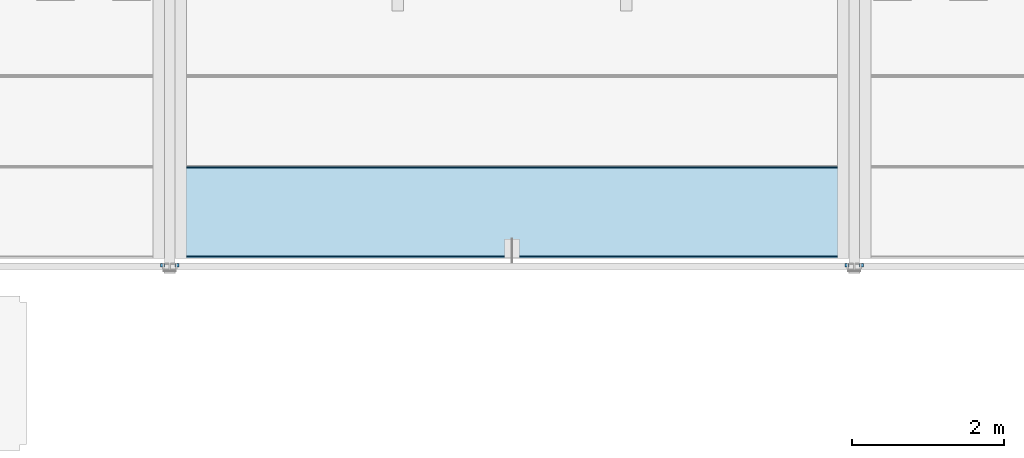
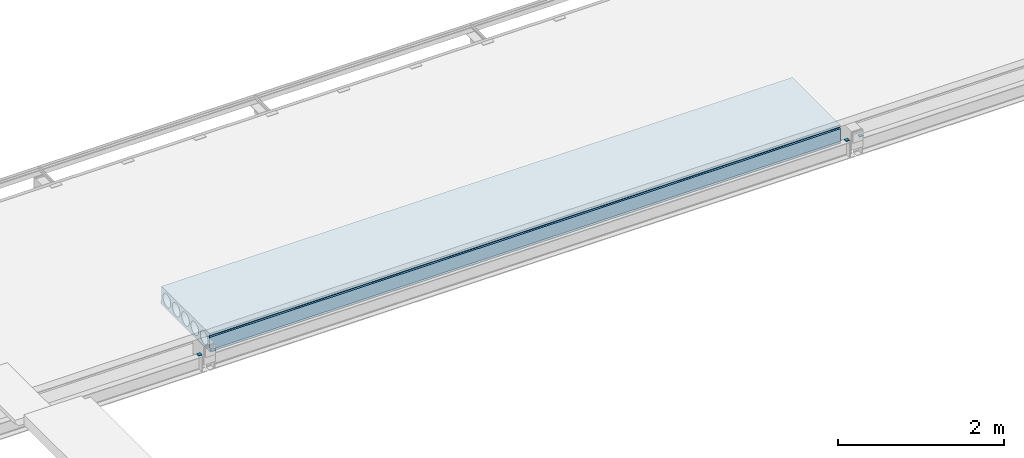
# One storey, part 4 of 8: 4 beams, 1 slab.
"""IFC2X3 building model written with IfcOpenShell, lengths in millimetres."""

from ifc_helpers import new_model, entity, si_unit, converted_unit, derived_unit, direction, frame, origin_with_axes, place, context, subcontext, project, spatial, polyline, outline, extrude, material, type_object, element, save


model = new_model("IFC2X3")

# Units and contexts
model_context = context("Model", 3, precision=0.01, world=frame((0.0, 4.29681676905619e-09, 0.0)), true_north=direction((4.01073788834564e-13, 1.0)))
plan_context = context("Plan", 3, precision=0.01, world=frame((0.0, 4.29681676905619e-09, 0.0)), true_north=direction((4.01073788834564e-13, 1.0)))
body_context = subcontext(model_context, "Body", "Model", "MODEL_VIEW")
ifc_project = project(units=[converted_unit("PLANEANGLEUNIT", "DEGREE", entity("IfcPositiveLengthMeasure", 0.0174532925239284), si_unit("PLANEANGLEUNIT", "RADIAN"), dimensions=[0, 0, 0, 0, 0, 0, 0]), si_unit("AREAUNIT", "SQUARE_METRE"), si_unit("LENGTHUNIT", "METRE", prefix="MILLI"), si_unit("MASSUNIT", "GRAM", prefix="KILO"), si_unit("POWERUNIT", "WATT"), si_unit("PRESSUREUNIT", "PASCAL"), si_unit("FORCEUNIT", "NEWTON", prefix="KILO"), si_unit("ELECTRICVOLTAGEUNIT", "VOLT"), si_unit("ELECTRICCURRENTUNIT", "AMPERE"), si_unit("THERMODYNAMICTEMPERATUREUNIT", "DEGREE_CELSIUS"), si_unit("TIMEUNIT", "SECOND"), si_unit("VOLUMEUNIT", "CUBIC_METRE"), derived_unit("LINEARVELOCITYUNIT", [(si_unit("LENGTHUNIT", "METRE"), 1), (si_unit("TIMEUNIT", "SECOND"), -1)]), derived_unit("VOLUMETRICFLOWRATEUNIT", [(si_unit("VOLUMEUNIT", "CUBIC_METRE"), 1), (si_unit("TIMEUNIT", "SECOND"), -1)]), derived_unit("THERMALTRANSMITTANCEUNIT", [(si_unit("POWERUNIT", "WATT"), 1), (si_unit("THERMODYNAMICTEMPERATUREUNIT", "KELVIN"), -1), (si_unit("AREAUNIT", "SQUARE_METRE"), -1)]), derived_unit("SOUNDPRESSUREUNIT", [(si_unit("PRESSUREUNIT", "PASCAL"), 1)])], contexts=[model_context, plan_context])

# Site, building, storey
site_placement = place(None, frame((0.0, -4.29681676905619e-09, 0.0), z_axis=(0.0, 0.0, 1.0), x_axis=(1.0, 0.0, 0.0)))
site = spatial("IfcSite", under=ifc_project, at=site_placement, Name="Gardermoen", CompositionType="ELEMENT")
building_placement = place(site_placement, frame((0.0, 4.29681676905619e-09, 0.0), z_axis=(0.0, 0.0, 1.0), x_axis=(1.0, 0.0, 0.0)))
building = spatial("IfcBuilding", under=site, at=building_placement, Name="TH", CompositionType="ELEMENT")
storey_placement = place(building_placement, origin_with_axes())
storey = spatial("IfcBuildingStorey", under=building, at=storey_placement, Name="G", CompositionType="ELEMENT", Elevation=0.0)

# Beams
ifc_material_1 = material(Name="STEEL/S355")
beam_type = type_object("IfcBeamType", Name="PL10*50", PredefinedType="NOTDEFINED")
for number, where, z_axis, x_axis in (
    (1, (907119.999737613, 480765.004375, 213405.0), (-6.61744490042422e-24, 0.0, -1.0), (-1.0, 0.0, 6.61744490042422e-24)),
    (2, (906929.999784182, 480765.004375, 213405.0), (-6.61744490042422e-24, 0.0, -1.0), (-1.0, 0.0, 6.61744490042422e-24)),
    (3, (898119.999737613, 480765.004375, 213405.0), (-6.61744490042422e-24, 0.0, -1.0), (-1.0, 0.0, 6.61744490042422e-24)),
    (4, (897929.999784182, 480765.004375, 213405.0), (-6.61744490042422e-24, 0.0, -1.0), (-1.0, 0.0, 6.61744490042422e-24)),
):
    element("IfcBeam", number, at=place(storey_placement, frame(where, z_axis=z_axis, x_axis=x_axis)), inside=storey, type_object=beam_type, material=ifc_material_1, Name="STÅLBJELKE", ObjectType="PL10*50", context=body_context, shape_type="SweptSolid", body=[
        extrude(outline(polyline([(0.0, 0.0), (50.0, -2.26096119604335e-09), (50.0, 50.0), (2.83482609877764e-06, 49.9999999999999), (0.0, 0.0)])), frame((0.0, 0.0, -5.0), z_axis=(0.0, 0.0, 1.0), x_axis=(1.0, 0.0, 0.0)), (0.0, 0.0, 1.0), 10.0),
    ])

# Slab
ifc_material_2 = material(Name="CONCRETE/C45/55")
slab_type = type_object("IfcSlabType", Name="HD265", PredefinedType="NOTDEFINED")
slab_placement = place(storey_placement, frame((898116.001717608, 481487.997053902, 213427.5), z_axis=(0.0, 0.0, 1.0), x_axis=(1.0, 0.0, 0.0)))
element("IfcSlab", 5, at=slab_placement, inside=storey, type_object=slab_type, material=ifc_material_2, Name="HULLDEKKE", ObjectType="HD265", PredefinedType="FLOOR", context=body_context, shape_type="SweptSolid", body=[
    extrude(outline(polyline([(-583.380004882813, -132.5), (-600.0, -122.5), (-600.0, -112.5), (-585.0, -102.5), (-577.5, 77.5), (-570.0, 92.5), (-577.5, 107.5), (-577.5, 132.5), (577.5, 132.5), (577.5, 107.5), (570.0, 92.5), (577.5, 77.5), (585.0, -102.5), (600.0, -112.5), (600.0, -122.5), (583.380004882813, -132.5), (-583.380004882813, -132.5)]), holes=[polyline([(-539.238420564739, 15.2249996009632), (-540.184065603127, 7.63858945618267), (-540.5, 0.0), (-540.184065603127, -7.63858945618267), (-539.238420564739, -15.2249996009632), (-537.669524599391, -22.7074075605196), (-535.488094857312, -30.0347009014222), (-532.709032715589, -37.1568267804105), (-529.351321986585, -44.0251338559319), (-525.437899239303, -50.5927046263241), (-520.995497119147, -56.8146759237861), (-516.05446173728, -62.6485453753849), (-510.648545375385, -68.0544617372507), (-504.814675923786, -72.9954971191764), (-498.592704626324, -77.437899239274), (-492.025133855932, -81.3513219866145), (-485.15682678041, -84.7090327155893), (-478.034700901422, -87.4880948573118), (-470.707407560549, -89.6695245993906), (-463.224999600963, -91.2384205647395), (-455.638589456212, -92.1840656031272), (-448.0, -92.5), (-440.361410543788, -92.1840656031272), (-432.775000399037, -91.2384205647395), (-425.292592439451, -89.6695245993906), (-417.965299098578, -87.4880948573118), (-410.84317321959, -84.7090327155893), (-403.974866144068, -81.3513219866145), (-397.407295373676, -77.437899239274), (-391.185324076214, -72.9954971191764), (-385.351454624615, -68.0544617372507), (-379.94553826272, -62.6485453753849), (-375.004502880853, -56.8146759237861), (-370.562100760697, -50.5927046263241), (-366.648678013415, -44.0251338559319), (-363.290967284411, -37.1568267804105), (-360.511905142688, -30.0347009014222), (-358.330475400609, -22.7074075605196), (-356.761579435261, -15.2249996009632), (-355.815934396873, -7.63858945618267), (-355.5, 0.0), (-355.815934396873, 7.63858945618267), (-356.761579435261, 15.2249996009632), (-358.330475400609, 22.7074075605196), (-360.511905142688, 30.0347009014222), (-363.290967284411, 37.1568267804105), (-366.648678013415, 44.0251338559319), (-370.562100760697, 50.5927046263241), (-375.004502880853, 56.8146759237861), (-379.94553826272, 62.6485453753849), (-385.351454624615, 68.0544617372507), (-391.185324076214, 72.9954971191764), (-397.407295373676, 77.437899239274), (-403.974866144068, 81.3513219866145), (-410.84317321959, 84.7090327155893), (-417.965299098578, 87.4880948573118), (-425.292592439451, 89.6695245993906), (-432.775000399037, 91.2384205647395), (-440.361410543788, 92.1840656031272), (-448.0, 92.5), (-455.638589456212, 92.1840656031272), (-463.224999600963, 91.2384205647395), (-470.707407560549, 89.6695245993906), (-478.034700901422, 87.4880948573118), (-485.15682678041, 84.7090327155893), (-492.025133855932, 81.3513219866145), (-498.592704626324, 77.437899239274), (-504.814675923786, 72.9954971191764), (-510.648545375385, 68.0544617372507), (-516.05446173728, 62.6485453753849), (-520.995497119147, 56.8146759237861), (-525.437899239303, 50.5927046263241), (-529.351321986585, 44.0251338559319), (-532.709032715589, 37.1568267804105), (-535.488094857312, 30.0347009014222), (-537.669524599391, 22.7074075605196), (-539.238420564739, 15.2249996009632)]), polyline([(-315.238420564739, 15.2249996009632), (-316.184065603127, 7.63858945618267), (-316.5, 0.0), (-316.184065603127, -7.63858945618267), (-315.238420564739, -15.2249996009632), (-313.669524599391, -22.7074075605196), (-311.488094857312, -30.0347009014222), (-308.709032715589, -37.1568267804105), (-305.351321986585, -44.0251338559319), (-301.437899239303, -50.5927046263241), (-296.995497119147, -56.8146759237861), (-292.05446173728, -62.6485453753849), (-286.648545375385, -68.0544617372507), (-280.814675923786, -72.9954971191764), (-274.592704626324, -77.437899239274), (-268.025133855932, -81.3513219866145), (-261.15682678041, -84.7090327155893), (-254.034700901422, -87.4880948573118), (-246.707407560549, -89.6695245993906), (-239.224999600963, -91.2384205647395), (-231.638589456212, -92.1840656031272), (-224.0, -92.5), (-216.361410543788, -92.1840656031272), (-208.775000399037, -91.2384205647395), (-201.292592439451, -89.6695245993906), (-193.965299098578, -87.4880948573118), (-186.84317321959, -84.7090327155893), (-179.974866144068, -81.3513219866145), (-173.407295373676, -77.437899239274), (-167.185324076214, -72.9954971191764), (-161.351454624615, -68.0544617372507), (-155.94553826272, -62.6485453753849), (-151.004502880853, -56.8146759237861), (-146.562100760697, -50.5927046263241), (-142.648678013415, -44.0251338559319), (-139.290967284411, -37.1568267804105), (-136.511905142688, -30.0347009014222), (-134.330475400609, -22.7074075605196), (-132.761579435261, -15.2249996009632), (-131.815934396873, -7.63858945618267), (-131.5, 0.0), (-131.815934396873, 7.63858945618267), (-132.761579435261, 15.2249996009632), (-134.330475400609, 22.7074075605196), (-136.511905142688, 30.0347009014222), (-139.290967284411, 37.1568267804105), (-142.648678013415, 44.0251338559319), (-146.562100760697, 50.5927046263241), (-151.004502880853, 56.8146759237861), (-155.94553826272, 62.6485453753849), (-161.351454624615, 68.0544617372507), (-167.185324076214, 72.9954971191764), (-173.407295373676, 77.437899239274), (-179.974866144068, 81.3513219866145), (-186.84317321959, 84.7090327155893), (-193.965299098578, 87.4880948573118), (-201.292592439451, 89.6695245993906), (-208.775000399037, 91.2384205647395), (-216.361410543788, 92.1840656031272), (-224.0, 92.5), (-231.638589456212, 92.1840656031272), (-239.224999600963, 91.2384205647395), (-246.707407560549, 89.6695245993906), (-254.034700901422, 87.4880948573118), (-261.15682678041, 84.7090327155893), (-268.025133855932, 81.3513219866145), (-274.592704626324, 77.437899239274), (-280.814675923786, 72.9954971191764), (-286.648545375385, 68.0544617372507), (-292.05446173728, 62.6485453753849), (-296.995497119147, 56.8146759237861), (-301.437899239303, 50.5927046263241), (-305.351321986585, 44.0251338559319), (-308.709032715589, 37.1568267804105), (-311.488094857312, 30.0347009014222), (-313.669524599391, 22.7074075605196), (-315.238420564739, 15.2249996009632)]), polyline([(-91.2384205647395, 15.2249996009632), (-92.1840656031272, 7.63858945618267), (-92.5, 0.0), (-92.1840656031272, -7.63858945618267), (-91.2384205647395, -15.2249996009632), (-89.6695245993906, -22.7074075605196), (-87.4880948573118, -30.0347009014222), (-84.7090327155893, -37.1568267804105), (-81.3513219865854, -44.0251338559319), (-77.4378992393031, -50.5927046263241), (-72.9954971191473, -56.8146759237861), (-68.0544617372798, -62.6485453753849), (-62.6485453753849, -68.0544617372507), (-56.8146759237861, -72.9954971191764), (-50.5927046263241, -77.437899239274), (-44.0251338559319, -81.3513219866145), (-37.1568267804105, -84.7090327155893), (-30.0347009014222, -87.4880948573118), (-22.7074075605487, -89.6695245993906), (-15.2249996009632, -91.2384205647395), (-7.63858945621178, -92.1840656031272), (0.0, -92.5), (7.63858945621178, -92.1840656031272), (15.2249996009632, -91.2384205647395), (22.7074075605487, -89.6695245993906), (30.0347009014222, -87.4880948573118), (37.1568267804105, -84.7090327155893), (44.0251338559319, -81.3513219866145), (50.5927046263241, -77.437899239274), (56.8146759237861, -72.9954971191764), (62.6485453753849, -68.0544617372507), (68.0544617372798, -62.6485453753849), (72.9954971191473, -56.8146759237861), (77.4378992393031, -50.5927046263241), (81.3513219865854, -44.0251338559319), (84.7090327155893, -37.1568267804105), (87.4880948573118, -30.0347009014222), (89.6695245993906, -22.7074075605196), (91.2384205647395, -15.2249996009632), (92.1840656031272, -7.63858945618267), (92.5, 0.0), (92.1840656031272, 7.63858945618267), (91.2384205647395, 15.2249996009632), (89.6695245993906, 22.7074075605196), (87.4880948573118, 30.0347009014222), (84.7090327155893, 37.1568267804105), (81.3513219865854, 44.0251338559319), (77.4378992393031, 50.5927046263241), (72.9954971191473, 56.8146759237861), (68.0544617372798, 62.6485453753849), (62.6485453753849, 68.0544617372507), (56.8146759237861, 72.9954971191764), (50.5927046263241, 77.437899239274), (44.0251338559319, 81.3513219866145), (37.1568267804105, 84.7090327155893), (30.0347009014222, 87.4880948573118), (22.7074075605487, 89.6695245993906), (15.2249996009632, 91.2384205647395), (7.63858945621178, 92.1840656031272), (0.0, 92.5), (-7.63858945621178, 92.1840656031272), (-15.2249996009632, 91.2384205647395), (-22.7074075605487, 89.6695245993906), (-30.0347009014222, 87.4880948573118), (-37.1568267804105, 84.7090327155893), (-44.0251338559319, 81.3513219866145), (-50.5927046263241, 77.437899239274), (-56.8146759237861, 72.9954971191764), (-62.6485453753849, 68.0544617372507), (-68.0544617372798, 62.6485453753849), (-72.9954971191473, 56.8146759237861), (-77.4378992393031, 50.5927046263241), (-81.3513219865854, 44.0251338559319), (-84.7090327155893, 37.1568267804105), (-87.4880948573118, 30.0347009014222), (-89.6695245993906, 22.7074075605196), (-91.2384205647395, 15.2249996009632)]), polyline([(132.761579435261, 15.2249996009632), (131.815934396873, 7.63858945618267), (131.5, 0.0), (131.815934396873, -7.63858945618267), (132.761579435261, -15.2249996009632), (134.330475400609, -22.7074075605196), (136.511905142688, -30.0347009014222), (139.290967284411, -37.1568267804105), (142.648678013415, -44.0251338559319), (146.562100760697, -50.5927046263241), (151.004502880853, -56.8146759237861), (155.94553826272, -62.6485453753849), (161.351454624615, -68.0544617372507), (167.185324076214, -72.9954971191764), (173.407295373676, -77.437899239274), (179.974866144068, -81.3513219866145), (186.84317321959, -84.7090327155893), (193.965299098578, -87.4880948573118), (201.292592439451, -89.6695245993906), (208.775000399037, -91.2384205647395), (216.361410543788, -92.1840656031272), (224.0, -92.5), (231.638589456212, -92.1840656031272), (239.224999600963, -91.2384205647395), (246.707407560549, -89.6695245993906), (254.034700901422, -87.4880948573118), (261.15682678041, -84.7090327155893), (268.025133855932, -81.3513219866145), (274.592704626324, -77.437899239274), (280.814675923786, -72.9954971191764), (286.648545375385, -68.0544617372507), (292.05446173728, -62.6485453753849), (296.995497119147, -56.8146759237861), (301.437899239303, -50.5927046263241), (305.351321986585, -44.0251338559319), (308.709032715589, -37.1568267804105), (311.488094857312, -30.0347009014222), (313.669524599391, -22.7074075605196), (315.238420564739, -15.2249996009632), (316.184065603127, -7.63858945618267), (316.5, 0.0), (316.184065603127, 7.63858945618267), (315.238420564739, 15.2249996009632), (313.669524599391, 22.7074075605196), (311.488094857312, 30.0347009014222), (308.709032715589, 37.1568267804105), (305.351321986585, 44.0251338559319), (301.437899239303, 50.5927046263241), (296.995497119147, 56.8146759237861), (292.05446173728, 62.6485453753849), (286.648545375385, 68.0544617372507), (280.814675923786, 72.9954971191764), (274.592704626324, 77.437899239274), (268.025133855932, 81.3513219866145), (261.15682678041, 84.7090327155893), (254.034700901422, 87.4880948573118), (246.707407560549, 89.6695245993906), (239.224999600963, 91.2384205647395), (231.638589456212, 92.1840656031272), (224.0, 92.5), (216.361410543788, 92.1840656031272), (208.775000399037, 91.2384205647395), (201.292592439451, 89.6695245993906), (193.965299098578, 87.4880948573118), (186.84317321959, 84.7090327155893), (179.974866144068, 81.3513219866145), (173.407295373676, 77.437899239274), (167.185324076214, 72.9954971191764), (161.351454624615, 68.0544617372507), (155.94553826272, 62.6485453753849), (151.004502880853, 56.8146759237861), (146.562100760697, 50.5927046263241), (142.648678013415, 44.0251338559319), (139.290967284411, 37.1568267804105), (136.511905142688, 30.0347009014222), (134.330475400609, 22.7074075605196), (132.761579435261, 15.2249996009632)]), polyline([(356.761579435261, 15.2249996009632), (355.815934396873, 7.63858945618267), (355.5, 0.0), (355.815934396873, -7.63858945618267), (356.761579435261, -15.2249996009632), (358.330475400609, -22.7074075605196), (360.511905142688, -30.0347009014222), (363.290967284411, -37.1568267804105), (366.648678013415, -44.0251338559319), (370.562100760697, -50.5927046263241), (375.004502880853, -56.8146759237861), (379.94553826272, -62.6485453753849), (385.351454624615, -68.0544617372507), (391.185324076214, -72.9954971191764), (397.407295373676, -77.437899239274), (403.974866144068, -81.3513219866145), (410.84317321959, -84.7090327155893), (417.965299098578, -87.4880948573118), (425.292592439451, -89.6695245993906), (432.775000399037, -91.2384205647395), (440.361410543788, -92.1840656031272), (448.0, -92.5), (455.638589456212, -92.1840656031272), (463.224999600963, -91.2384205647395), (470.707407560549, -89.6695245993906), (478.034700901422, -87.4880948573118), (485.15682678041, -84.7090327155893), (492.025133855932, -81.3513219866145), (498.592704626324, -77.437899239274), (504.814675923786, -72.9954971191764), (510.648545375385, -68.0544617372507), (516.05446173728, -62.6485453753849), (520.995497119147, -56.8146759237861), (525.437899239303, -50.5927046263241), (529.351321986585, -44.0251338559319), (532.709032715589, -37.1568267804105), (535.488094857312, -30.0347009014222), (537.669524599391, -22.7074075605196), (539.238420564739, -15.2249996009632), (540.184065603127, -7.63858945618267), (540.5, 0.0), (540.184065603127, 7.63858945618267), (539.238420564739, 15.2249996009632), (537.669524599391, 22.7074075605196), (535.488094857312, 30.0347009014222), (532.709032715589, 37.1568267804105), (529.351321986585, 44.0251338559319), (525.437899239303, 50.5927046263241), (520.995497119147, 56.8146759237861), (516.05446173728, 62.6485453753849), (510.648545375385, 68.0544617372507), (504.814675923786, 72.9954971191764), (498.592704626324, 77.437899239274), (492.025133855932, 81.3513219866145), (485.15682678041, 84.7090327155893), (478.034700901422, 87.4880948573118), (470.707407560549, 89.6695245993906), (463.224999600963, 91.2384205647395), (455.638589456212, 92.1840656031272), (448.0, 92.5), (440.361410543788, 92.1840656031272), (432.775000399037, 91.2384205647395), (425.292592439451, 89.6695245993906), (417.965299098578, 87.4880948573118), (410.84317321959, 84.7090327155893), (403.974866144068, 81.3513219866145), (397.407295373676, 77.437899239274), (391.185324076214, 72.9954971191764), (385.351454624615, 68.0544617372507), (379.94553826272, 62.6485453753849), (375.004502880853, 56.8146759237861), (370.562100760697, 50.5927046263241), (366.648678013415, 44.0251338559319), (363.290967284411, 37.1568267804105), (360.511905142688, 30.0347009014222), (358.330475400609, 22.7074075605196), (356.761579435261, 15.2249996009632)])]), frame((8768.0, 0.0, 0.0), z_axis=(-1.0, 0.0, 6.61744490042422e-24), x_axis=(0.0, -1.0, 0.0)), (0.0, 0.0, 1.0), 8768.0),
])

save(model, "model.ifc")
